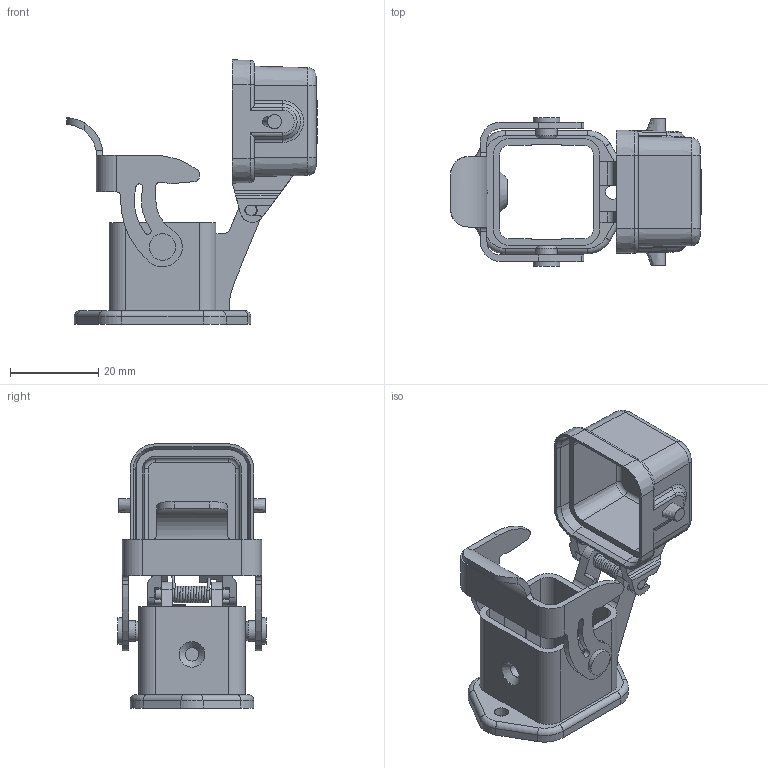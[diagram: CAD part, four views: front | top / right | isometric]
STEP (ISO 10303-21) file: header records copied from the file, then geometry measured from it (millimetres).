
FILE_DESCRIPTION(/* description */ (''),/* implementation_level */ '2;1');
FILE_NAME(/* name */ '100208839ugm000_d.stp',/* time_stamp */ '2022-03-11T17:38:01+01:00',/* author */ (''),/* organization */ (''),/* preprocessor_version */ 'ST-DEVELOPER v16.7',/* originating_system */ 'SIEMENS PLM Software NX 1911',/* authorisation */ '');
FILE_SCHEMA (('AUTOMOTIVE_DESIGN { 1 0 10303 214 3 1 1 1 }'));
Length unit declared in the file: millimetre
Products named in the file (1): 100208839ugm000_d
Bounding box: 56.91 x 33.6 x 59.95 mm (x, y, z)
Volume: 10176.5 mm3; surface area: 13764.7 mm2
Topology: 3 solids, 3 shells, 430 faces, 1165 edges, 766 vertices
Faces by surface type: plane 235, cylinder 137, cone 26, bspline 15, torus 14, extrusion 3
Full cylindrical faces by diameter (mm): 0.7 x1, 1 x1, 2.5 x3, 3.05 x1, 3.2 x2, 3.5 x2, 4.8 x4, 5.8 x1, 6 x2
Entity records: 18618 total; most frequent: CARTESIAN_POINT 6281, ORIENTED_EDGE 2238, DIRECTION 2233, EDGE_CURVE 1119, AXIS2_PLACEMENT_3D 751, VERTEX_POINT 747, VECTOR 731, LINE 728
